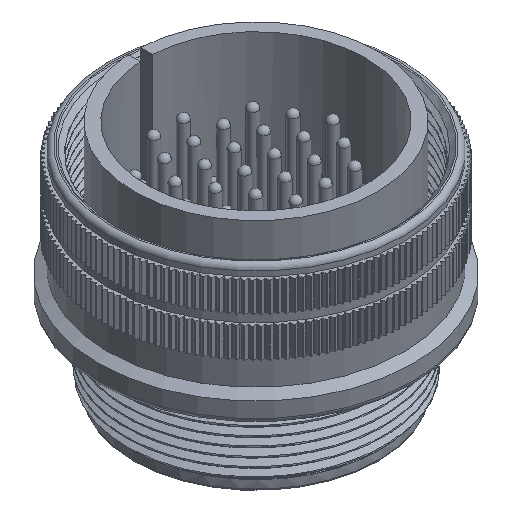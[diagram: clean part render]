
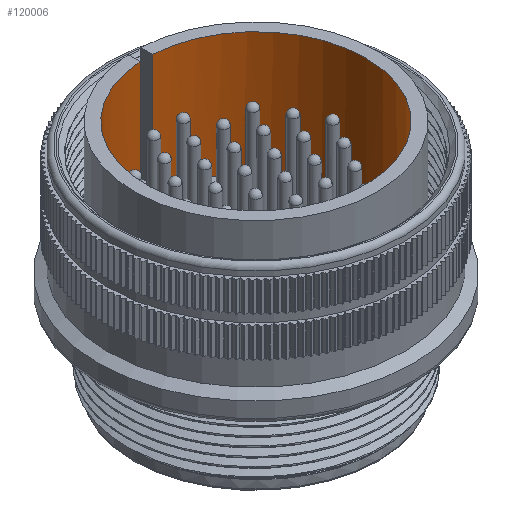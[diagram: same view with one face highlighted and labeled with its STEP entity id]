
A CAD part, isometric view. The second image highlights one B-rep face of the part: STEP entity #120006.
In plain terms, the highlighted cylindrical face has radius 17.4 mm (diameter 34.8 mm), a full revolution.
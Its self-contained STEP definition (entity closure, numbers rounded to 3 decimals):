
#1035 = LINE ( 'NONE', #5565, #10681 ) ;
#2816 = ORIENTED_EDGE ( 'NONE', *, *, #137896, .T. ) ;
#4887 = DIRECTION ( 'NONE',  ( 1., 0., 0. ) ) ;
#5565 = CARTESIAN_POINT ( 'NONE',  ( 1., 17.371, -20.93 ) ) ;
#8234 = CARTESIAN_POINT ( 'NONE',  ( 0., 0., -19.42 ) ) ;
#10681 = VECTOR ( 'NONE', #78879, 1000. ) ;
#13919 = FACE_OUTER_BOUND ( 'NONE', #152064, .T. ) ;
#18713 = ORIENTED_EDGE ( 'NONE', *, *, #27938, .T. ) ;
#21381 = CARTESIAN_POINT ( 'NONE',  ( -1., 17.371, -17.91 ) ) ;
#22701 = DIRECTION ( 'NONE',  ( 0., 0., 1. ) ) ;
#23579 = CARTESIAN_POINT ( 'NONE',  ( 17.4, 0., -19.42 ) ) ;
#25192 = CARTESIAN_POINT ( 'NONE',  ( -1., 17.371, 0. ) ) ;
#27938 = EDGE_CURVE ( 'NONE', #86711, #56193, #1035, .T. ) ;
#32741 = DIRECTION ( 'NONE',  ( 1., 0., 0. ) ) ;
#33560 = AXIS2_PLACEMENT_3D ( 'NONE', #43163, #53846, #4887 ) ;
#34185 = ORIENTED_EDGE ( 'NONE', *, *, #154960, .F. ) ;
#43163 = CARTESIAN_POINT ( 'NONE',  ( 0., 0., 0. ) ) ;
#44133 = DIRECTION ( 'NONE',  ( 0., 0., 1. ) ) ;
#45505 = EDGE_LOOP ( 'NONE', ( #34185 ) ) ;
#53846 = DIRECTION ( 'NONE',  ( 0., 0., 1. ) ) ;
#54564 = CIRCLE ( 'NONE', #33560, 17.4 ) ;
#56193 = VERTEX_POINT ( 'NONE', #112421 ) ;
#62797 = ORIENTED_EDGE ( 'NONE', *, *, #144180, .T. ) ;
#63118 = CIRCLE ( 'NONE', #112357, 17.4 ) ;
#65075 = ORIENTED_EDGE ( 'NONE', *, *, #110178, .T. ) ;
#67880 = AXIS2_PLACEMENT_3D ( 'NONE', #153078, #44133, #70662 ) ;
#70662 = DIRECTION ( 'NONE',  ( 1., 0., 0. ) ) ;
#78544 = FACE_OUTER_BOUND ( 'NONE', #45505, .T. ) ;
#78879 = DIRECTION ( 'NONE',  ( 0., 0., -1. ) ) ;
#81686 = CARTESIAN_POINT ( 'NONE',  ( -1., 17.371, -20.93 ) ) ;
#86711 = VERTEX_POINT ( 'NONE', #116052 ) ;
#86776 = DIRECTION ( 'NONE',  ( 0., 0., 1. ) ) ;
#108474 = VERTEX_POINT ( 'NONE', #25192 ) ;
#110159 = DIRECTION ( 'NONE',  ( 1., 0., 0. ) ) ;
#110178 = EDGE_CURVE ( 'NONE', #148270, #108474, #136515, .T. ) ;
#112357 = AXIS2_PLACEMENT_3D ( 'NONE', #135129, #86776, #110159 ) ;
#112421 = CARTESIAN_POINT ( 'NONE',  ( 1., 17.371, -17.91 ) ) ;
#116052 = CARTESIAN_POINT ( 'NONE',  ( 1., 17.371, 0. ) ) ;
#120006 = ADVANCED_FACE ( 'NONE', ( #78544, #13919 ), #133716, .F. ) ;
#122786 = VERTEX_POINT ( 'NONE', #23579 ) ;
#130468 = AXIS2_PLACEMENT_3D ( 'NONE', #8234, #142210, #32741 ) ;
#133716 = CYLINDRICAL_SURFACE ( 'NONE', #67880, 17.4 ) ;
#135129 = CARTESIAN_POINT ( 'NONE',  ( 0., 0., -17.91 ) ) ;
#136515 = LINE ( 'NONE', #81686, #153635 ) ;
#137896 = EDGE_CURVE ( 'NONE', #56193, #148270, #63118, .T. ) ;
#142210 = DIRECTION ( 'NONE',  ( 0., 0., 1. ) ) ;
#142357 = CIRCLE ( 'NONE', #130468, 17.4 ) ;
#144180 = EDGE_CURVE ( 'NONE', #108474, #86711, #54564, .T. ) ;
#148270 = VERTEX_POINT ( 'NONE', #21381 ) ;
#152064 = EDGE_LOOP ( 'NONE', ( #65075, #62797, #18713, #2816 ) ) ;
#153078 = CARTESIAN_POINT ( 'NONE',  ( 0., 0., -20.93 ) ) ;
#153635 = VECTOR ( 'NONE', #22701, 1000. ) ;
#154960 = EDGE_CURVE ( 'NONE', #122786, #122786, #142357, .T. ) ;
